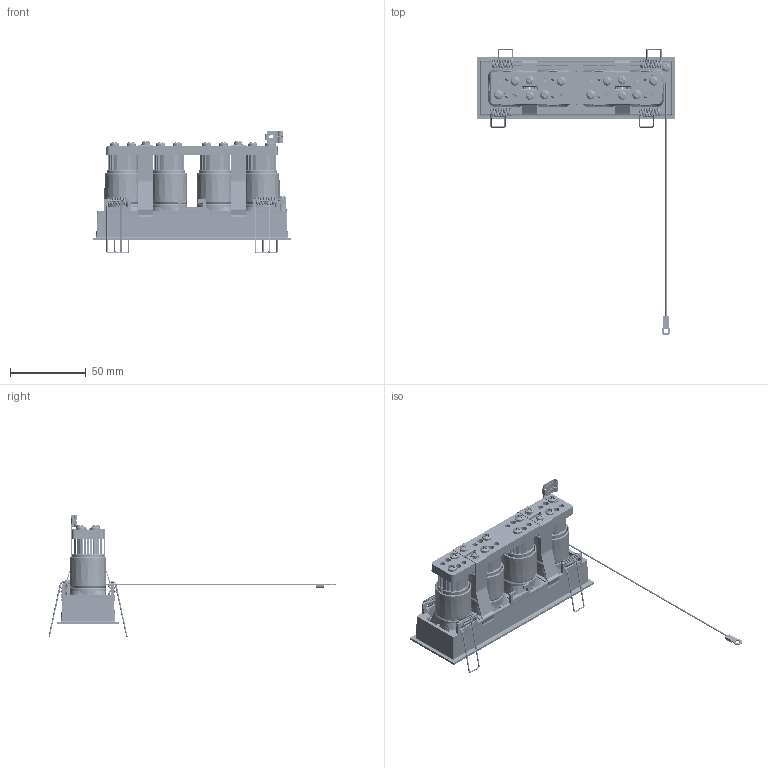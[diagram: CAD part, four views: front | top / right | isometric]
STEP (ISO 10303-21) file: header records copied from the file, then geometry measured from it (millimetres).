
FILE_DESCRIPTION((''),'2;1');
FILE_NAME('MOOD_PRO_4X_LINEAR_TRIM_ASM','2020-10-22T',('Administrator'),(''),'PRO/ENGINEER BY PARAMETRIC TECHNOLOGY CORPORATION, 2001280','PRO/ENGINEER BY PARAMETRIC TECHNOLOGY CORPORATION, 2001280','');
FILE_SCHEMA(('CONFIG_CONTROL_DESIGN'));
Length unit declared in the file: millimetre
Products named in the file (22): MOOD_4X_42252_5_2_1; 42249_1_1_1; 41223_3_1_1; CD52961_10_2; 1_52340-PCB_4_1; 1_34839_1_1; 42252-41223-52961-52340_ASM_6_A_ASM; 42252-41223-52961-52340_ASM_3_ASM; 44223V2_12; 1_21117-M320_2; 1_54803_7; 1_01723_2; PARTBODY_1-100368_2_1; PARTBODY_2-102027_4_1; PARTBODY_3_2_1; 1_42808_00_0_ASM_5_ASM_2_ASM; 41933_1; 31574_1; MOOD_PRO_4X_LINEAR_TRIMLESS_ASM_ASM; 44225-V2; 00593; MOOD_PRO_4X_LINEAR_TRIM_ASM
Assembly tree (42 placements, depth 5):
  MOOD_PRO_4X_LINEAR_TRIM_ASM
    MOOD_PRO_4X_LINEAR_TRIMLESS_ASM_ASM
      42252-41223-52961-52340_ASM_3_ASM  x4
        42252-41223-52961-52340_ASM_6_A_ASM
          MOOD_4X_42252_5_2_1
          42249_1_1_1
          41223_3_1_1
          CD52961_10_2
          1_52340-PCB_4_1
          1_34839_1_1  x2
      44223V2_12
      1_21117-M320_2  x8
      1_54803_7  x4
      1_01723_2  x5
      1_42808_00_0_ASM_5_ASM_2_ASM
        PARTBODY_1-100368_2_1
        PARTBODY_2-102027_4_1
        PARTBODY_3_2_1
      41933_1
      31574_1
    44225-V2
    00593  x4
Bounding box: 131 x 189.63 x 81.25 mm (x, y, z)
Volume: 82621.9 mm3; surface area: 109763.5 mm2
Topology: 56 solids, 56 shells, 4618 faces, 12301 edges, 7820 vertices
Faces by surface type: plane 2280, cylinder 1316, bspline 508, cone 303, torus 80, sphere 58, extrusion 57, revolution 16
Entity records: 72209 total; most frequent: CARTESIAN_POINT 26962, ORIENTED_EDGE 9622, DIRECTION 8726, EDGE_CURVE 4811, VERTEX_POINT 3056, VECTOR 2968, LINE 2920, AXIS2_PLACEMENT_3D 2877
